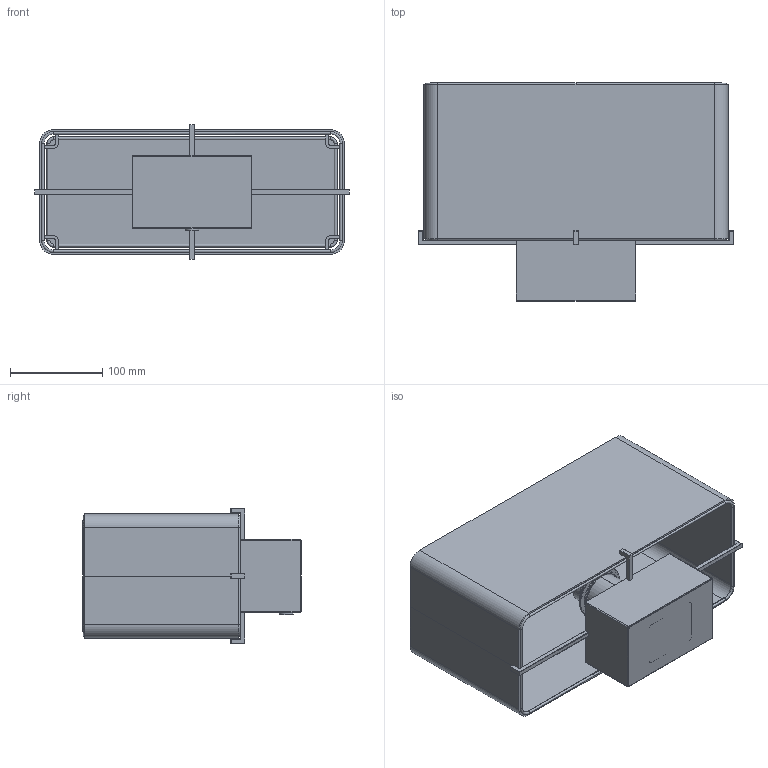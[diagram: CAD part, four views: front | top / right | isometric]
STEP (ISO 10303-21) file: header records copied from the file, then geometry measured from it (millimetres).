
FILE_DESCRIPTION (( 'STEP AP214' ), '1' );
FILE_NAME ('NONNA H24 Table lamp.STEP', '2025-09-29T12:38:03', ( '' ), ( '' ), 'SwSTEP 2.0', 'SolidWorks 2024', '' );
FILE_SCHEMA (( 'AUTOMOTIVE_DESIGN' ));
Length unit declared in the file: millimetre
Products named in the file (10): Bracket 1; Cable Gland; Lamp shade; Bracket 2; Lamp cup; Felt pad; Full thread lampholder E27_默认; Base; NONNA H24 Table lamp; Ring_默认
Assembly tree (11 placements, depth 2):
  NONNA H24 Table lamp
    Base
    Bracket 1  x2
    Bracket 2  x2
    Lamp shade
    Lamp cup
    Felt pad
    Full thread lampholder E27_默认
    Ring_默认
    Cable Gland
Bounding box: 341 x 236.35 x 146 mm (x, y, z)
Volume: 898335.1 mm3; surface area: 540691.5 mm2
Topology: 20 solids, 20 shells, 652 faces, 1529 edges, 927 vertices
Faces by surface type: plane 345, cylinder 215, cone 50, torus 38, bspline 4
Entity records: 16618 total; most frequent: CARTESIAN_POINT 4256, DIRECTION 2605, ORIENTED_EDGE 2418, EDGE_CURVE 1209, AXIS2_PLACEMENT_3D 931, VECTOR 743, LINE 743, VERTEX_POINT 741
